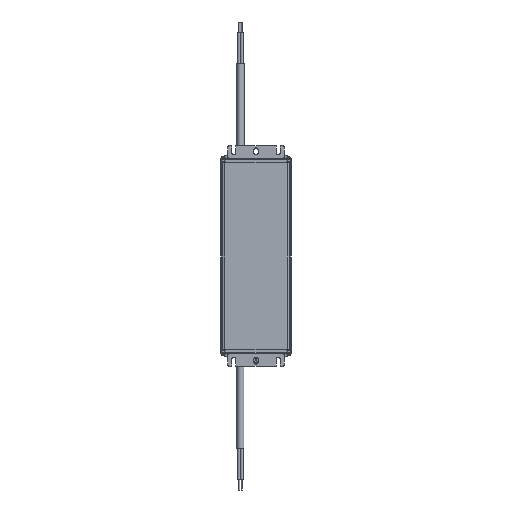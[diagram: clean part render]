
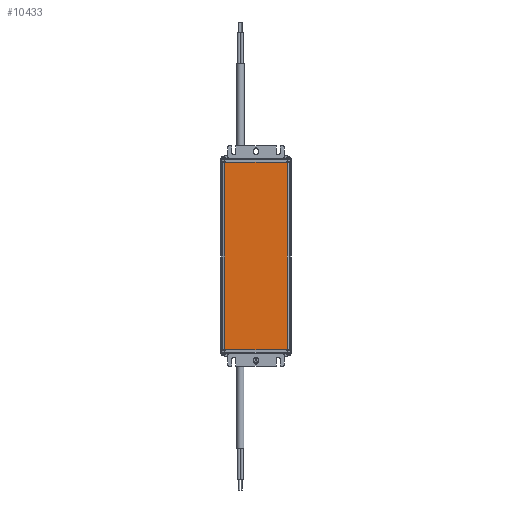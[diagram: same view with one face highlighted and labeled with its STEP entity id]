
A CAD part, front view. The second image highlights one B-rep face of the part: STEP entity #10433.
In plain terms, the highlighted planar face has unit normal (0, -1, 0).
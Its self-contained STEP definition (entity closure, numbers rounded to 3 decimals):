
#109 = CARTESIAN_POINT ( 'NONE',  ( 0., -17.7, 92. ) ) ;
#3140 = CARTESIAN_POINT ( 'NONE',  ( 30.2, -17.7, 92. ) ) ;
#3693 = CARTESIAN_POINT ( 'NONE',  ( -30.2, -17.7, 92. ) ) ;
#3776 = ORIENTED_EDGE ( 'NONE', *, *, #18024, .T. ) ;
#3971 = VERTEX_POINT ( 'NONE', #27065 ) ;
#5273 = AXIS2_PLACEMENT_3D ( 'NONE', #19967, #7967, #24873 ) ;
#5784 = ORIENTED_EDGE ( 'NONE', *, *, #17519, .F. ) ;
#6102 = CARTESIAN_POINT ( 'NONE',  ( -30.2, -17.7, 92. ) ) ;
#6110 = DIRECTION ( 'NONE',  ( 0., 0., -1. ) ) ;
#6424 = VECTOR ( 'NONE', #17592, 1000. ) ;
#7967 = DIRECTION ( 'NONE',  ( 0., 1., 0. ) ) ;
#8135 = CARTESIAN_POINT ( 'NONE',  ( 0., -17.7, -92. ) ) ;
#9655 = VECTOR ( 'NONE', #14542, 1000. ) ;
#10433 = ADVANCED_FACE ( 'NONE', ( #14720 ), #22423, .F. ) ;
#12378 = VERTEX_POINT ( 'NONE', #6102 ) ;
#14137 = LINE ( 'NONE', #3693, #19763 ) ;
#14542 = DIRECTION ( 'NONE',  ( -1., 0., 0. ) ) ;
#14720 = FACE_OUTER_BOUND ( 'NONE', #20148, .T. ) ;
#15431 = DIRECTION ( 'NONE',  ( -1., 0., 0. ) ) ;
#17519 = EDGE_CURVE ( 'NONE', #17618, #3971, #19717, .T. ) ;
#17592 = DIRECTION ( 'NONE',  ( 0., 0., 1. ) ) ;
#17618 = VERTEX_POINT ( 'NONE', #18236 ) ;
#18024 = EDGE_CURVE ( 'NONE', #17618, #27804, #30611, .T. ) ;
#18236 = CARTESIAN_POINT ( 'NONE',  ( 30.2, -17.7, -92. ) ) ;
#19717 = LINE ( 'NONE', #8135, #31057 ) ;
#19763 = VECTOR ( 'NONE', #6110, 1000. ) ;
#19967 = CARTESIAN_POINT ( 'NONE',  ( 0., -17.7, 92. ) ) ;
#20148 = EDGE_LOOP ( 'NONE', ( #5784, #3776, #23807, #26044 ) ) ;
#20554 = EDGE_CURVE ( 'NONE', #27804, #12378, #22505, .T. ) ;
#22423 = PLANE ( 'NONE',  #5273 ) ;
#22505 = LINE ( 'NONE', #109, #9655 ) ;
#23807 = ORIENTED_EDGE ( 'NONE', *, *, #20554, .T. ) ;
#24788 = CARTESIAN_POINT ( 'NONE',  ( 30.2, -17.7, 92. ) ) ;
#24873 = DIRECTION ( 'NONE',  ( 0., 0., -1. ) ) ;
#26044 = ORIENTED_EDGE ( 'NONE', *, *, #28954, .T. ) ;
#27065 = CARTESIAN_POINT ( 'NONE',  ( -30.2, -17.7, -92. ) ) ;
#27804 = VERTEX_POINT ( 'NONE', #3140 ) ;
#28954 = EDGE_CURVE ( 'NONE', #12378, #3971, #14137, .T. ) ;
#30611 = LINE ( 'NONE', #24788, #6424 ) ;
#31057 = VECTOR ( 'NONE', #15431, 1000. ) ;
